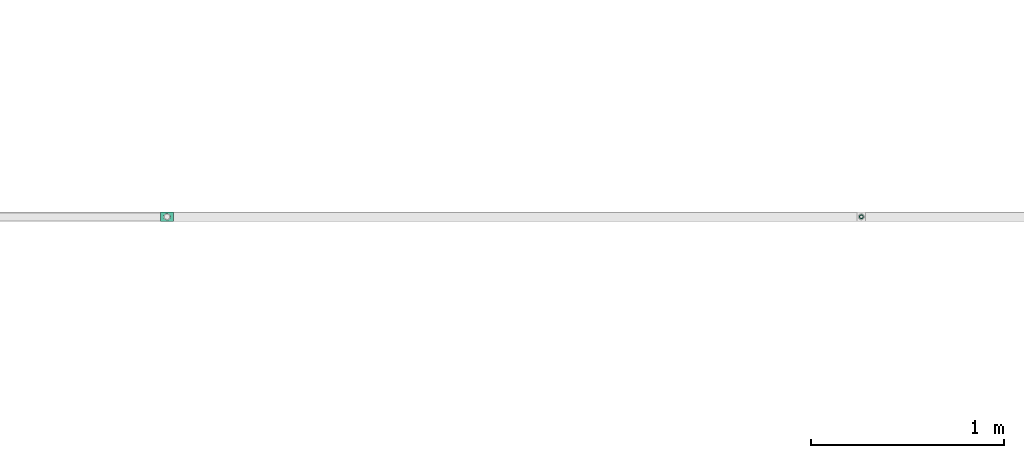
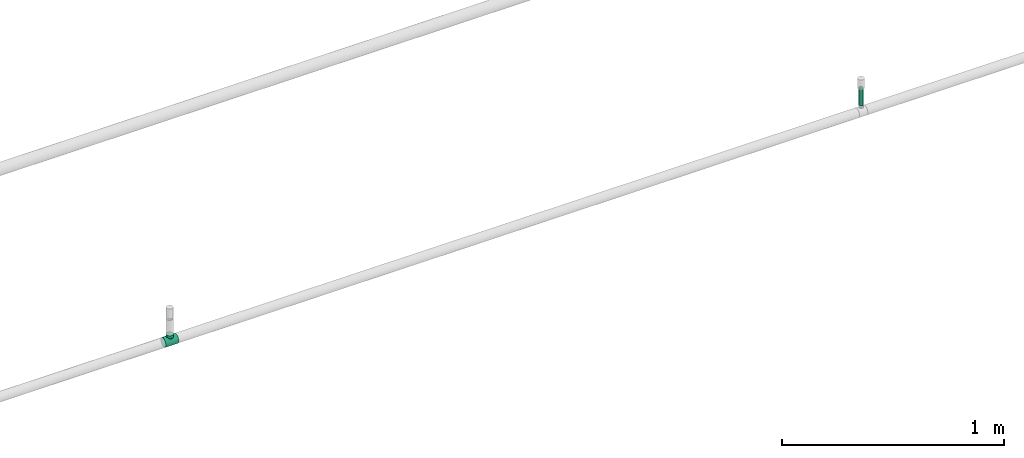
# One storey, part 4 of 14: 1 flow fitting, 1 flow segment.
"""IFC2X3 building model written with IfcOpenShell, lengths in millimetres."""

from ifc_helpers import new_model, entity, si_unit, converted_unit, derived_unit, direction, frame, origin_with_axes, origin_2d_with_axis, place, context, subcontext, project, spatial, hollow_circle, extrude, open_shell, surface_model, source, transform, mapped, type_object, element, save


model = new_model("IFC2X3")

# Units and contexts
model_context = context("Model", 3, precision=0.01, world=frame((0.0, 4.29681676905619e-09, 0.0)), true_north=direction((4.01073788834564e-13, 1.0)))
plan_context = context("Plan", 3, precision=0.01, world=frame((0.0, 4.29681676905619e-09, 0.0)), true_north=direction((4.01073788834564e-13, 1.0)))
body_context = subcontext(model_context, "Body", "Model", "MODEL_VIEW")
ifc_project = project(units=[converted_unit("PLANEANGLEUNIT", "DEGREE", entity("IfcPositiveLengthMeasure", 0.0174532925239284), si_unit("PLANEANGLEUNIT", "RADIAN"), dimensions=[0, 0, 0, 0, 0, 0, 0]), si_unit("AREAUNIT", "SQUARE_METRE"), si_unit("LENGTHUNIT", "METRE", prefix="MILLI"), si_unit("MASSUNIT", "GRAM", prefix="KILO"), si_unit("POWERUNIT", "WATT"), si_unit("PRESSUREUNIT", "PASCAL"), si_unit("FORCEUNIT", "NEWTON", prefix="KILO"), si_unit("ELECTRICVOLTAGEUNIT", "VOLT"), si_unit("ELECTRICCURRENTUNIT", "AMPERE"), si_unit("THERMODYNAMICTEMPERATUREUNIT", "DEGREE_CELSIUS"), si_unit("TIMEUNIT", "SECOND"), si_unit("VOLUMEUNIT", "CUBIC_METRE"), derived_unit("LINEARVELOCITYUNIT", [(si_unit("LENGTHUNIT", "METRE"), 1), (si_unit("TIMEUNIT", "SECOND"), -1)]), derived_unit("VOLUMETRICFLOWRATEUNIT", [(si_unit("VOLUMEUNIT", "CUBIC_METRE"), 1), (si_unit("TIMEUNIT", "SECOND"), -1)]), derived_unit("THERMALTRANSMITTANCEUNIT", [(si_unit("POWERUNIT", "WATT"), 1), (si_unit("THERMODYNAMICTEMPERATUREUNIT", "KELVIN"), -1), (si_unit("AREAUNIT", "SQUARE_METRE"), -1)]), derived_unit("SOUNDPRESSUREUNIT", [(si_unit("PRESSUREUNIT", "PASCAL"), 1)])], contexts=[model_context, plan_context])

# Site, building, storey
site_placement = place(None, frame((0.0, -4.29681676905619e-09, 0.0), z_axis=(0.0, 0.0, 1.0), x_axis=(1.0, 0.0, 0.0)))
site = spatial("IfcSite", under=ifc_project, at=site_placement, CompositionType="ELEMENT")
building_placement = place(site_placement, frame((0.0, 4.29681676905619e-09, 0.0), z_axis=(0.0, 0.0, 1.0), x_axis=(1.0, 0.0, 0.0)))
building = spatial("IfcBuilding", under=site, at=building_placement, Name="mc-building", CompositionType="ELEMENT")
storey_placement = place(building_placement, frame((0.0, 0.0, 204000.0), z_axis=(0.0, 0.0, 1.0), x_axis=(1.0, 0.0, 0.0)))
storey = spatial("IfcBuildingStorey", under=building, at=storey_placement, Name="Nivå D", CompositionType="ELEMENT", Elevation=204000.0)

# Flow fitting
pipe_fitting_type = type_object("IfcPipeFittingType", Name="magi_pipe_fe_tee_centric_90_NOR", PredefinedType="JUNCTION")
shared_shape_1 = source(origin_with_axes(), body_context, "Body", "SurfaceModel", [
    surface_model("IfcShellBasedSurfaceModel", [(-33.8, 0.0, -24.2), (-33.8, -6.26342, -23.37541), (-33.8, 6.26342, -23.37541), (-33.8, 12.1, -20.95781), (-33.8, 17.11198, -17.11198), (-33.8, 20.95781, -12.1), (-33.8, -23.37541, -6.26342), (-33.8, 23.37541, -6.26342), (-33.8, -17.11198, -17.11198), (-33.8, -20.95781, -12.1), (-33.8, -12.1, -20.95781), (-33.8, -24.2, 0.0), (-33.8, -23.37541, 6.26342), (-33.8, 20.95781, 12.1), (-33.8, 23.37541, 6.26342), (-33.8, 24.2, 0.0), (-33.8, 12.1, 20.95781), (-33.8, 17.11198, 17.11198), (-33.8, -17.11198, 17.11198), (-33.8, 6.26342, 23.37541), (-33.8, -20.95781, 12.1), (-33.8, -12.1, 20.95781), (-33.8, -6.26342, 23.37541), (-33.8, 0.0, 24.2), (33.8, 6.26342, -23.37541), (33.8, -6.26342, -23.37541), (33.8, 0.0, -24.2), (33.8, 17.11198, -17.11198), (33.8, 12.1, -20.95781), (33.8, -23.37541, -6.26342), (33.8, 20.95781, -12.1), (33.8, 23.37541, -6.26342), (33.8, -17.11198, -17.11198), (33.8, -12.1, -20.95781), (33.8, -20.95781, -12.1), (33.8, -24.2, 0.0), (33.8, 24.2, 0.0), (33.8, 23.37541, 6.26342), (33.8, 20.95781, 12.1), (33.8, -23.37541, 6.26342), (33.8, -17.11198, 17.11198), (33.8, 12.1, 20.95781), (33.8, 17.11198, 17.11198), (33.8, 6.26342, 23.37541), (33.8, -20.95781, 12.1), (33.8, -12.1, 20.95781), (33.8, 0.0, 24.2), (33.8, -6.26342, 23.37541), (15.81824, -23.45734, 5.94922), (16.9, -24.2, 0.0), (12.87025, -21.57947, 10.95293), (33.8, -19.0349, 14.60599), (8.52813, -19.30697, 14.59044), (3.03527, -17.5853, 16.6252), (-3.04044, -17.58619, 16.62425), (-8.52961, -19.30762, 14.58958), (-33.8, -19.0349, 14.60599), (-16.9, -24.2, 0.0), (-15.81885, -23.45775, 5.9476), (-12.87368, -21.58151, 10.9489), (3.03527, -17.5853, -16.6252), (33.8, -19.0349, -14.60599), (8.52813, -19.30697, -14.59044), (-8.52961, -19.30762, -14.58958), (-33.8, -19.0349, -14.60599), (12.87025, -21.57947, -10.95293), (-3.04044, -17.58619, -16.62425), (15.81824, -23.45734, -5.94922), (-12.87368, -21.58151, -10.9489), (-15.81885, -23.45775, -5.9476), (4.37404, -36.3, -16.32415), (-16.9, -36.3, 0.0), (0.0, -36.3, -16.9), (14.63583, -36.3, -8.45), (8.45, -36.3, -14.63583), (16.32415, -36.3, -4.37404), (11.9501, -36.3, -11.9501), (-11.9501, -36.3, -11.9501), (-8.45, -36.3, -14.63583), (-4.37404, -36.3, -16.32415), (-14.63583, -36.3, -8.45), (-16.32415, -36.3, -4.37404), (16.9, -36.3, 0.0), (8.45, -36.3, 14.63583), (16.32415, -36.3, 4.37404), (14.63583, -36.3, 8.45), (-8.45, -36.3, 14.63583), (11.9501, -36.3, 11.9501), (4.37404, -36.3, 16.32415), (-16.32415, -36.3, 4.37404), (-11.9501, -36.3, 11.9501), (-14.63583, -36.3, 8.45), (0.0, -36.3, 16.9), (-4.37404, -36.3, 16.32415), (-16.35943, -23.82888, 2.9738), (16.35912, -23.82867, 2.97461), (-0.00259, -17.58575, 16.62472), (16.35912, -23.82867, -2.97461), (-0.00259, -17.58575, -16.62472), (-16.35943, -23.82888, -2.9738)], [open_shell([[[0, 1, 2]], [[3, 2, 4]], [[5, 2, 6]], [[4, 2, 5]], [[7, 5, 6]], [[8, 9, 10]], [[1, 10, 9]], [[1, 9, 2]], [[9, 6, 2]], [[6, 11, 7]], [[11, 12, 7]], [[13, 14, 15]], [[13, 15, 12]], [[16, 17, 18]], [[12, 17, 13]], [[19, 16, 18]], [[20, 18, 12]], [[18, 17, 12]], [[21, 22, 18]], [[23, 18, 22]], [[18, 23, 19]], [[7, 12, 15]], [[24, 25, 26]], [[27, 24, 28]], [[29, 24, 30]], [[30, 24, 27]], [[29, 30, 31]], [[25, 32, 33]], [[32, 25, 34]], [[24, 34, 25]], [[24, 29, 34]], [[31, 35, 29]], [[31, 36, 35]], [[36, 37, 38]], [[39, 36, 38]], [[40, 38, 41]], [[41, 38, 42]], [[40, 41, 43]], [[39, 40, 44]], [[39, 38, 40]], [[45, 46, 47]], [[46, 45, 40]], [[43, 46, 40]], [[36, 39, 35]], [[35, 39, 48]], [[48, 49, 35]], [[39, 50, 48]], [[51, 40, 52]], [[52, 50, 44]], [[53, 52, 40]], [[54, 53, 21]], [[44, 50, 39]], [[55, 18, 56]], [[57, 58, 11]], [[12, 11, 58]], [[58, 59, 12]], [[55, 54, 18]], [[55, 20, 59]], [[20, 55, 56]], [[59, 20, 12]], [[18, 54, 21]], [[52, 44, 51]], [[53, 40, 45]], [[23, 47, 46]], [[22, 45, 47]], [[19, 46, 43]], [[38, 37, 14]], [[17, 41, 42]], [[13, 42, 38]], [[43, 41, 16]], [[15, 37, 36]], [[21, 45, 22]], [[22, 47, 23]], [[19, 23, 46]], [[43, 16, 19]], [[16, 41, 17]], [[13, 17, 42]], [[14, 13, 38]], [[37, 15, 14]], [[45, 21, 53]], [[5, 31, 30]], [[7, 36, 31]], [[4, 30, 27]], [[26, 25, 1]], [[2, 28, 24]], [[0, 24, 26]], [[27, 28, 3]], [[10, 25, 33]], [[15, 36, 7]], [[7, 31, 5]], [[4, 5, 30]], [[27, 3, 4]], [[3, 28, 2]], [[0, 2, 24]], [[1, 0, 26]], [[25, 10, 1]], [[33, 60, 10]], [[61, 34, 62]], [[63, 9, 64]], [[62, 60, 32]], [[34, 65, 62]], [[66, 10, 60]], [[29, 35, 67]], [[67, 65, 29]], [[49, 67, 35]], [[29, 65, 34]], [[66, 63, 8]], [[62, 32, 61]], [[64, 8, 63]], [[63, 68, 9]], [[8, 10, 66]], [[68, 69, 6]], [[69, 11, 6]], [[11, 69, 57]], [[68, 6, 9]], [[60, 33, 32]], [[70, 71, 72]], [[73, 70, 74]], [[73, 75, 70]], [[73, 74, 76]], [[71, 70, 75]], [[72, 77, 78]], [[78, 79, 72]], [[80, 71, 81]], [[77, 72, 80]], [[71, 80, 72]], [[75, 82, 71]], [[83, 82, 84]], [[83, 84, 85]], [[86, 71, 83]], [[83, 85, 87]], [[86, 83, 88]], [[89, 90, 91]], [[90, 89, 86]], [[86, 92, 93]], [[89, 71, 86]], [[88, 92, 86]], [[83, 71, 82]], [[89, 94, 71]], [[59, 91, 90]], [[89, 91, 58]], [[90, 86, 55]], [[89, 58, 94]], [[94, 57, 71]], [[58, 91, 59]], [[95, 48, 84]], [[55, 93, 54]], [[55, 59, 90]], [[92, 53, 96]], [[55, 86, 93]], [[53, 92, 88]], [[83, 52, 88]], [[87, 85, 50]], [[87, 52, 83]], [[48, 85, 84]], [[87, 50, 52]], [[52, 53, 88]], [[82, 95, 84]], [[48, 50, 85]], [[95, 82, 49]], [[92, 54, 93]], [[96, 54, 92]], [[75, 97, 82]], [[65, 73, 76]], [[75, 73, 67]], [[76, 74, 62]], [[97, 49, 82]], [[67, 73, 65]], [[62, 70, 60]], [[62, 65, 76]], [[72, 66, 98]], [[62, 74, 70]], [[99, 71, 57]], [[99, 69, 81]], [[75, 67, 97]], [[79, 66, 72]], [[69, 80, 81]], [[77, 80, 68]], [[72, 60, 70]], [[79, 63, 66]], [[63, 79, 78]], [[78, 77, 63]], [[63, 77, 68]], [[68, 80, 69]], [[71, 99, 81]], [[98, 60, 72]]])]),
])
flow_fitting_placement = place(storey_placement, frame((601000.0, 696802.46783, 6140.0), z_axis=(0.0, -1.0, 0.0), x_axis=(-1.0, 0.0, 0.0)))
element("IfcFlowFitting", 1, at=flow_fitting_placement, inside=storey, type_object=pipe_fitting_type, Name="magi_pipe_fe_tee_centric_90_NOR", context=body_context, shape_type="MappedRepresentation", body=[
    mapped(shared_shape_1, transform((0.0, 0.0, 0.0), scale=1.0)),
])

# Flow segment
pipe_segment_type = type_object("IfcPipeSegmentType", Name="Stålrør normaltykke", PredefinedType="RIGIDSEGMENT")
shared_shape_2 = source(origin_with_axes(), body_context, "Body", "SweptSolid", [
    extrude(hollow_circle(Radius=10.7, WallThickness=2.0, at=origin_2d_with_axis()), frame((0.0, 0.0, 0.0), z_axis=(1.0, 0.0, 0.0), x_axis=(0.0, 1.0, 0.0)), (0.0, 0.0, 1.0), 96.7),
])
flow_segment_placement = place(storey_placement, frame((604600.0, 696802.46783, 6176.29999999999), z_axis=(0.0, 1.0, 0.0), x_axis=(0.0, 0.0, 1.0)))
element("IfcFlowSegment", 2, at=flow_segment_placement, inside=storey, type_object=pipe_segment_type, Name="Stålrør normaltykke", context=body_context, shape_type="MappedRepresentation", body=[
    mapped(shared_shape_2, transform((0.0, 0.0, 0.0), scale=1.0, scale2=1.0, scale3=1.0, uniform=False)),
])

save(model, "model.ifc")
